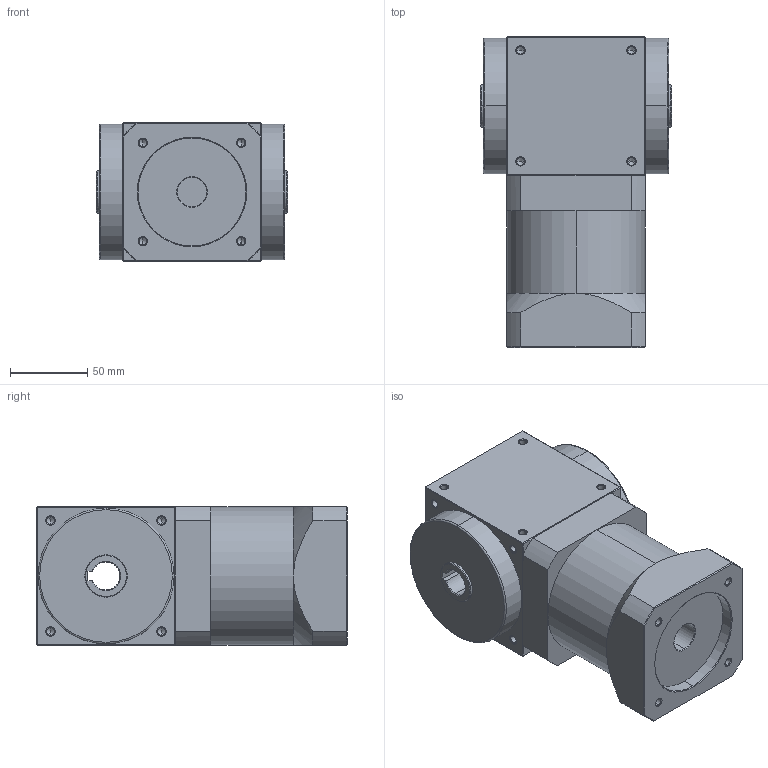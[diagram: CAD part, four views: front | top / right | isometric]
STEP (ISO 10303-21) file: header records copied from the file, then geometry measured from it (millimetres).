
FILE_DESCRIPTION (( 'STEP AP214' ), '1' );
FILE_NAME ('AT090-FH-L1-19-70-90-M6.STEP', '2019-09-19T05:50:32', ( 'User' ), ( 'Far123' ), 'SwSTEP 2.0', 'SolidWorks 2015', '' );
FILE_SCHEMA (( 'AUTOMOTIVE_DESIGN' ));
Length unit declared in the file: millimetre
Products named in the file (1): AT090-FH-L1-19-70-90-M6
Bounding box: 124 x 201.5 x 90 mm (x, y, z)
Volume: 1625130.2 mm3; surface area: 109108.3 mm2
Topology: 1 solids, 1 shells, 294 faces, 726 edges, 392 vertices
Faces by surface type: cone 118, cylinder 113, plane 59, torus 4
Entity records: 9312 total; most frequent: CARTESIAN_POINT 1865, DIRECTION 1368, ORIENTED_EDGE 1356, EDGE_CURVE 678, AXIS2_PLACEMENT_3D 527, VERTEX_POINT 392, EDGE_LOOP 326, VECTOR 314
